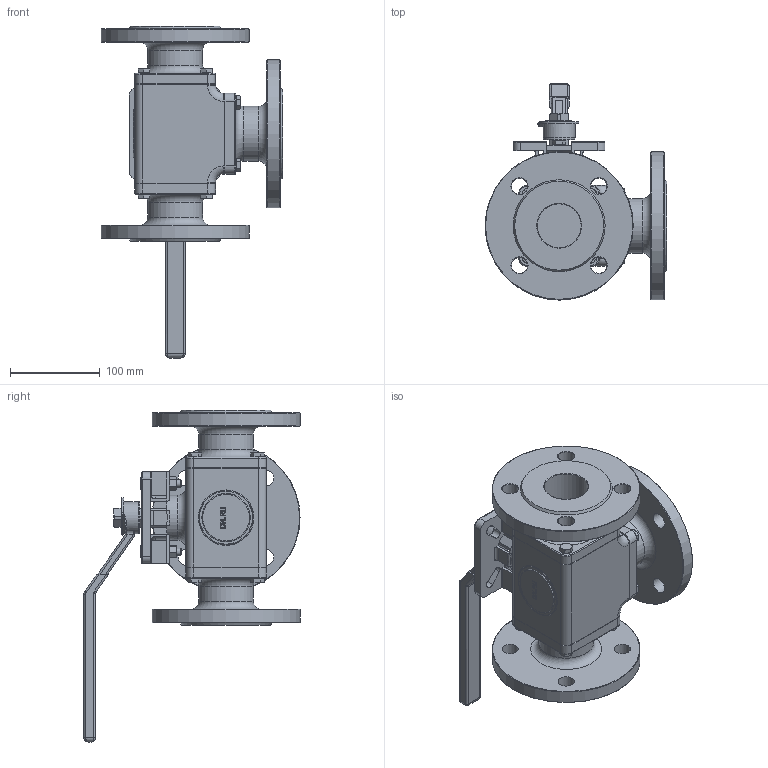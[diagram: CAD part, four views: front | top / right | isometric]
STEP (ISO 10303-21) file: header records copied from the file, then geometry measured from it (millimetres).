
FILE_DESCRIPTION(('STEP AP242'), '1');
FILE_NAME('BV3232P(4pc)-FP-3WT-F-ISO-H Êðàí øàðîâîé DN.ru Äó50 Ðó16', '', ('UNSPECIFIED'), ('UNSPECIFIED'), 'C3D Converter', 'C3D Toolkit', '');
FILE_SCHEMA(('AP242_MANAGED_MODEL_BASED_3D_ENGINEERING_MIM_LF { 1 0 10303 442 1 1 4 }'));
Length unit declared in the file: millimetre
Products named in the file (1): BV3232P(4pc)-FP-3WT-F-ISO-H
Bounding box: 202.5 x 240.89 x 370 mm (x, y, z)
Volume: 2513490.2 mm3; surface area: 362665.1 mm2
Topology: 1 solids, 14 shells, 900 faces, 2164 edges, 1344 vertices
Faces by surface type: plane 471, cylinder 195, cone 134, bspline 58, torus 42
Full cylindrical faces by diameter (mm): 1.336 x1, 1.364 x1, 2 x1, 8 x16, 9 x14, 13 x14, 18 x12, 30 x3, 35 x1, 36 x1, 49 x3, 50 x1, 61 x3, 165 x3
Entity records: 42572 total; most frequent: CARTESIAN_POINT 18083, ORIENTED_EDGE 4096, DIRECTION 3997, EDGE_CURVE 2048, AXIS2_PLACEMENT_3D 1496, VERTEX_POINT 1344, EDGE_LOOP 1136, LINE 1005
